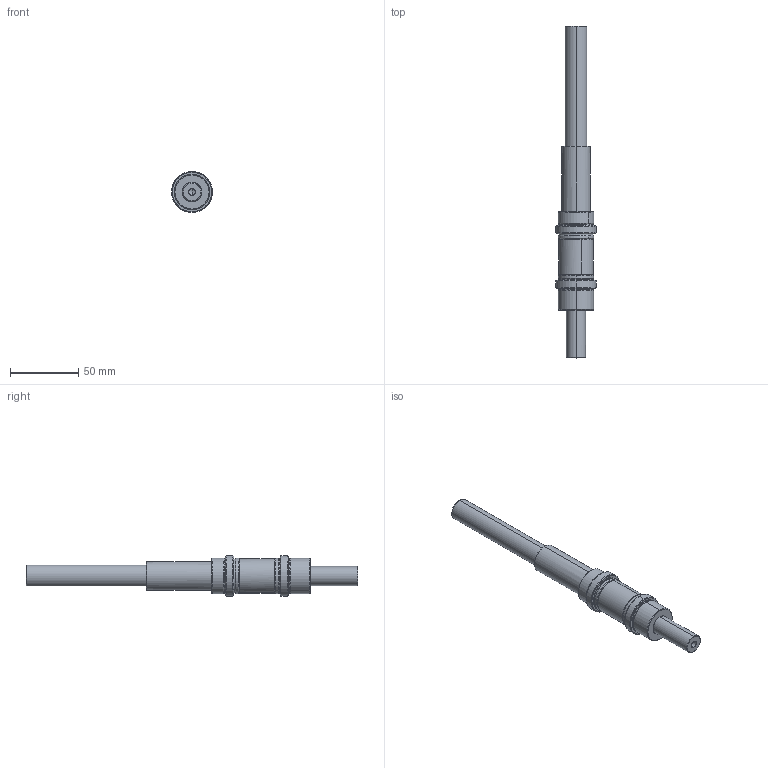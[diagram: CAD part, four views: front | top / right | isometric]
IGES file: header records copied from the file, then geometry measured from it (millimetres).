
Start section: START RECORD GO HERE.
Global section: file name: dx142622.igs; native system: DASSAULT SYSTEMES CATIA V5 R20 - www.3ds.com; preprocessor: CATIA Version 5 Release 20 ; author: Utente; organization: NB04-ASUS; date: 20201103.205321; units: millimetre
Bounding box: 30 x 243 x 30 mm (x, y, z)
Surface area: 40553.1 mm2 (no closed solid volume)
Topology: 0 solids, 0 shells, 464 faces, 2122 edges, 2112 vertices
Faces by surface type: revolution 322, bspline 80, plane 62
